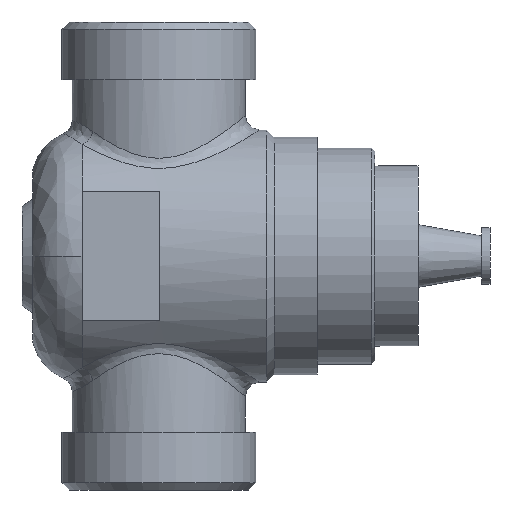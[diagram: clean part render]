
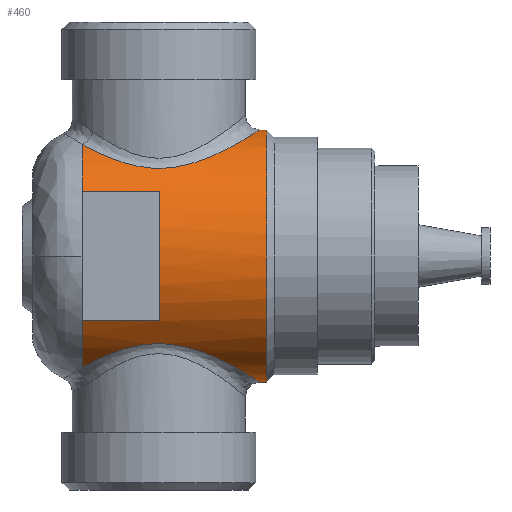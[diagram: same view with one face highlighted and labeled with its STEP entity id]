
A CAD part, left-side view. The second image highlights one B-rep face of the part: STEP entity #460.
In plain terms, the highlighted cylindrical face has radius 17.5 mm (diameter 35 mm), a partial arc.
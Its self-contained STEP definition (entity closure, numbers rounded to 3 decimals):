
#112=CARTESIAN_POINT('',(0.0,-15.0,15.0));
#113=VERTEX_POINT('',#112);
#122=CARTESIAN_POINT('',(0.,-15.,50.0));
#123=VERTEX_POINT('',#122);
#335=CARTESIAN_POINT('',(0.,-1.5,32.5));
#336=DIRECTION('',(0.,1.0,0.));
#337=DIRECTION('',(0.0,0.0,-1.0));
#338=AXIS2_PLACEMENT_3D('',#335,#336,#337);
#339=CYLINDRICAL_SURFACE('',#338,17.5);
#340=CARTESIAN_POINT('',(0.,-14.,15.));
#341=VERTEX_POINT('',#340);
#342=CARTESIAN_POINT('',(0.0,-15.0,15.0));
#343=DIRECTION('',(0.0,1.0,0.0));
#344=VECTOR('',#343,1.);
#345=LINE('',#342,#344);
#346=EDGE_CURVE('',#113,#341,#345,.T.);
#347=ORIENTED_EDGE('',*,*,#346,.F.);
#348=CARTESIAN_POINT('',(0.,-15.0,32.5));
#349=DIRECTION('',(0.0,-1.0,0.0));
#350=DIRECTION('',(0.0,0.0,-1.0));
#351=AXIS2_PLACEMENT_3D('',#348,#349,#350);
#352=CIRCLE('',#351,17.5);
#353=EDGE_CURVE('',#123,#113,#352,.T.);
#354=ORIENTED_EDGE('',*,*,#353,.F.);
#355=CARTESIAN_POINT('',(0.,-14.,50.0));
#356=VERTEX_POINT('',#355);
#357=CARTESIAN_POINT('',(0.,-14.,50.0));
#358=DIRECTION('',(0.0,-1.0,0.0));
#359=VECTOR('',#358,1.0);
#360=LINE('',#357,#359);
#361=EDGE_CURVE('',#356,#123,#360,.T.);
#362=ORIENTED_EDGE('',*,*,#361,.F.);
#363=CARTESIAN_POINT('',(-8.142,10.663,47.991));
#364=VERTEX_POINT('',#363);
#365=CARTESIAN_POINT('',(-8.142,10.663,47.991));
#366=CARTESIAN_POINT('',(-9.046,9.805,47.515));
#367=CARTESIAN_POINT('',(-9.84,8.806,46.995));
#368=CARTESIAN_POINT('',(-10.494,7.699,46.505));
#369=CARTESIAN_POINT('',(-11.756,5.562,45.559));
#370=CARTESIAN_POINT('',(-12.534,2.94,44.713));
#371=CARTESIAN_POINT('',(-12.563,0.163,44.683));
#372=CARTESIAN_POINT('',(-12.592,-2.58,44.653));
#373=CARTESIAN_POINT('',(-11.883,-5.207,45.436));
#374=CARTESIAN_POINT('',(-10.686,-7.363,46.358));
#375=CARTESIAN_POINT('',(-9.711,-9.12,47.11));
#376=CARTESIAN_POINT('',(-8.415,-10.608,47.941));
#377=CARTESIAN_POINT('',(-6.828,-11.752,48.613));
#378=CARTESIAN_POINT('',(-5.623,-12.621,49.124));
#379=CARTESIAN_POINT('',(-4.265,-13.275,49.537));
#380=CARTESIAN_POINT('',(-2.799,-13.648,49.775));
#381=CARTESIAN_POINT('',(-1.886,-13.881,49.923));
#382=CARTESIAN_POINT('',(-0.945,-14.,50.0));
#383=CARTESIAN_POINT('',(0.,-14.,50.0));
#384=B_SPLINE_CURVE_WITH_KNOTS('',3,(#365,#366,#367,#368,#369,#370,#371,#372,#373,#374,#375,#376,#377,#378,#379,#380,#381,#382,#383),.UNSPECIFIED.,.F.,.U.,(4,3,3,3,3,3,4),(0.0,4.275,12.521,20.67,27.313,32.355,35.498),.UNSPECIFIED.);
#385=EDGE_CURVE('',#364,#356,#384,.T.);
#386=ORIENTED_EDGE('',*,*,#385,.F.);
#387=CARTESIAN_POINT('',(-15.003,10.663,41.508));
#388=VERTEX_POINT('',#387);
#389=CARTESIAN_POINT('',(0.,10.663,32.5));
#390=DIRECTION('',(0.0,1.0,0.0));
#391=DIRECTION('',(-1.0,0.0,0.0));
#392=AXIS2_PLACEMENT_3D('',#389,#390,#391);
#393=CIRCLE('',#392,17.5);
#394=EDGE_CURVE('',#388,#364,#393,.T.);
#395=ORIENTED_EDGE('',*,*,#394,.F.);
#396=CARTESIAN_POINT('',(-15.003,-0.08,41.508));
#397=VERTEX_POINT('',#396);
#398=CARTESIAN_POINT('',(-15.003,-0.08,41.508));
#399=DIRECTION('',(0.0,1.0,0.0));
#400=VECTOR('',#399,10.743);
#401=LINE('',#398,#400);
#402=EDGE_CURVE('',#397,#388,#401,.T.);
#403=ORIENTED_EDGE('',*,*,#402,.F.);
#404=CARTESIAN_POINT('',(-15.003,-0.08,23.492));
#405=VERTEX_POINT('',#404);
#406=CARTESIAN_POINT('',(0.,-0.08,32.5));
#407=DIRECTION('',(0.0,1.0,0.0));
#408=DIRECTION('',(0.0,0.0,-1.0));
#409=AXIS2_PLACEMENT_3D('',#406,#407,#408);
#410=CIRCLE('',#409,17.5);
#411=EDGE_CURVE('',#405,#397,#410,.T.);
#412=ORIENTED_EDGE('',*,*,#411,.F.);
#413=CARTESIAN_POINT('',(-15.003,10.663,23.492));
#414=VERTEX_POINT('',#413);
#415=CARTESIAN_POINT('',(-15.003,10.663,23.492));
#416=DIRECTION('',(0.0,-1.0,0.0));
#417=VECTOR('',#416,10.743);
#418=LINE('',#415,#417);
#419=EDGE_CURVE('',#414,#405,#418,.T.);
#420=ORIENTED_EDGE('',*,*,#419,.F.);
#421=CARTESIAN_POINT('',(-8.142,10.663,17.009));
#422=VERTEX_POINT('',#421);
#423=CARTESIAN_POINT('',(0.,10.663,32.5));
#424=DIRECTION('',(0.0,1.0,0.0));
#425=DIRECTION('',(-1.0,0.0,0.0));
#426=AXIS2_PLACEMENT_3D('',#423,#424,#425);
#427=CIRCLE('',#426,17.5);
#428=EDGE_CURVE('',#422,#414,#427,.T.);
#429=ORIENTED_EDGE('',*,*,#428,.F.);
#430=CARTESIAN_POINT('',(0.,-14.,15.));
#431=CARTESIAN_POINT('',(-0.003,-14.,15.));
#432=CARTESIAN_POINT('',(-0.005,-14.,15.));
#433=CARTESIAN_POINT('',(-0.008,-14.,15.));
#434=CARTESIAN_POINT('',(-0.956,-13.999,15.));
#435=CARTESIAN_POINT('',(-1.911,-13.876,15.08));
#436=CARTESIAN_POINT('',(-2.821,-13.643,15.229));
#437=CARTESIAN_POINT('',(-4.276,-13.269,15.467));
#438=CARTESIAN_POINT('',(-5.651,-12.605,15.886));
#439=CARTESIAN_POINT('',(-6.848,-11.738,16.396));
#440=CARTESIAN_POINT('',(-8.227,-10.739,16.982));
#441=CARTESIAN_POINT('',(-9.396,-9.466,17.693));
#442=CARTESIAN_POINT('',(-10.314,-7.994,18.363));
#443=CARTESIAN_POINT('',(-11.399,-6.256,19.154));
#444=CARTESIAN_POINT('',(-12.162,-4.192,19.91));
#445=CARTESIAN_POINT('',(-12.444,-1.929,20.196));
#446=CARTESIAN_POINT('',(-12.639,-0.372,20.393));
#447=CARTESIAN_POINT('',(-12.592,1.247,20.341));
#448=CARTESIAN_POINT('',(-12.315,2.772,20.067));
#449=CARTESIAN_POINT('',(-12.039,4.298,19.793));
#450=CARTESIAN_POINT('',(-11.547,5.709,19.324));
#451=CARTESIAN_POINT('',(-10.89,6.982,18.801));
#452=CARTESIAN_POINT('',(-10.166,8.384,18.226));
#453=CARTESIAN_POINT('',(-9.241,9.621,17.587));
#454=CARTESIAN_POINT('',(-8.142,10.663,17.009));
#455=B_SPLINE_CURVE_WITH_KNOTS('',3,(#430,#431,#432,#433,#434,#435,#436,#437,#438,#439,#440,#441,#442,#443,#444,#445,#446,#447,#448,#449,#450,#451,#452,#453,#454),.UNSPECIFIED.,.F.,.U.,(4,3,3,3,3,3,3,3,4),(35.498,35.507,38.659,43.701,49.512,56.376,61.097,65.818,71.014),.UNSPECIFIED.);
#456=EDGE_CURVE('',#341,#422,#455,.T.);
#457=ORIENTED_EDGE('',*,*,#456,.F.);
#458=EDGE_LOOP('',(#347,#354,#362,#386,#395,#403,#412,#420,#429,#457));
#459=FACE_OUTER_BOUND('',#458,.T.);
#460=ADVANCED_FACE('',(#459),#339,.T.);
